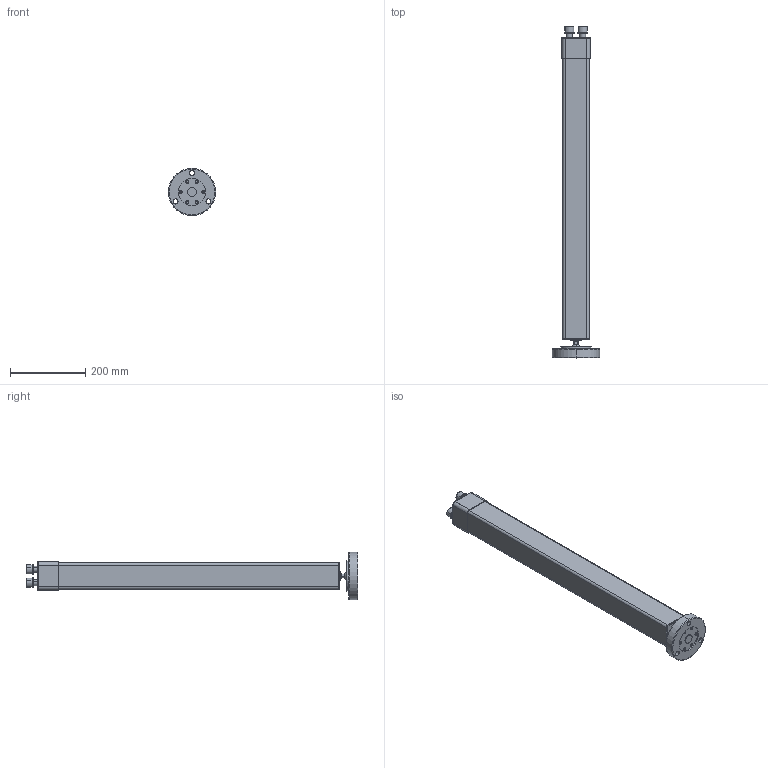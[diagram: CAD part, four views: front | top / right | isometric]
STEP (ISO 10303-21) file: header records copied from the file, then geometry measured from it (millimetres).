
FILE_DESCRIPTION (( 'STEP AP203' ), '1' );
FILE_NAME ('160873.X_850.step', '2014-08-11T17:00:58', ( 'User' ), ( '' ), 'SwSTEP 2.0', 'SolidWorks 2014', '' );
FILE_SCHEMA (( 'CONFIG_CONTROL_DESIGN' ));
Length unit declared in the file: millimetre
Products named in the file (11): Spindel^160868 Bodenverankerung_Foto_160873.X_850_Einfach; M8x30 DIN 7991_Produktbild; Sechskantmutter M16x1,5 Flach DIN ISO 8675_Detailliert; 160868 Bodenverankerung_Foto^160873.X_850_Detailliert; Fußrohr^160873.X_850; 160873 Manschette_Foto_V1 Kreis; M16x50 DIN 912_Detailliert; 160873.X_850; Ring DIN 127 A16; Bodenplatte^160868 Bodenverankerung_Foto_160873.X_850; halter^160868 Bodenverankerung_Foto_160873.X_850
Assembly tree (18 placements, depth 3):
  160873.X_850
    Fußrohr^160873.X_850
    M16x50 DIN 912_Detailliert  x2
    Ring DIN 127 A16  x2
    160868 Bodenverankerung_Foto^160873.X_850_Detailliert
      Bodenplatte^160868 Bodenverankerung_Foto_160873.X_850
      halter^160868 Bodenverankerung_Foto_160873.X_850  x2
      Spindel^160868 Bodenverankerung_Foto_160873.X_850_Einfach
      M8x30 DIN 7991_Produktbild  x6
      Sechskantmutter M16x1,5 Flach DIN ISO 8675_Detailliert
    160873 Manschette_Foto_V1 Kreis
Bounding box: 126 x 883.5 x 126 mm (x, y, z)
Volume: 1216797.4 mm3; surface area: 544035 mm2
Topology: 17 solids, 23 shells, 709 faces, 1731 edges, 1083 vertices
Faces by surface type: cylinder 312, plane 147, cone 132, torus 70, bspline 42, sphere 6
Entity records: 17420 total; most frequent: CARTESIAN_POINT 7992, DIRECTION 1808, ORIENTED_EDGE 1620, EDGE_CURVE 810, AXIS2_PLACEMENT_3D 750, VERTEX_POINT 492, EDGE_LOOP 402, CIRCLE 383
